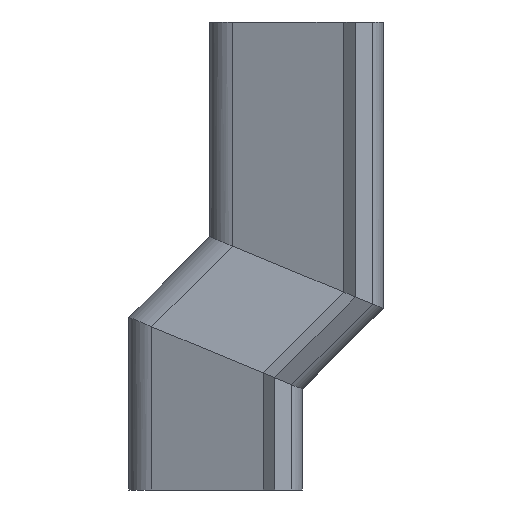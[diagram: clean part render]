
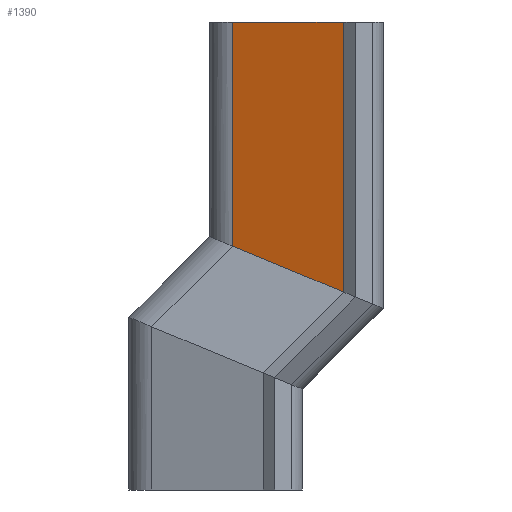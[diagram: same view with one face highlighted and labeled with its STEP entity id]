
A CAD part, left-side view. The second image highlights one B-rep face of the part: STEP entity #1390.
In plain terms, the highlighted planar face has unit normal (-0.929, 0.369, 0).
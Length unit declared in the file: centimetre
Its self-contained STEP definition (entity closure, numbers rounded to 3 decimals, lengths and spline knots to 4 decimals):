
#35=PLANE('',#1506);
#122=FACE_OUTER_BOUND('',#214,.T.);
#214=EDGE_LOOP('',(#1036,#1037,#1038,#1039));
#332=LINE('',#2195,#482);
#333=LINE('',#2198,#483);
#334=LINE('',#2200,#484);
#335=LINE('',#2201,#485);
#482=VECTOR('',#1760,0.1);
#483=VECTOR('',#1763,0.1);
#484=VECTOR('',#1764,0.1);
#485=VECTOR('',#1765,0.1);
#658=VERTEX_POINT('',#2191);
#659=VERTEX_POINT('',#2193);
#660=VERTEX_POINT('',#2197);
#661=VERTEX_POINT('',#2199);
#802=EDGE_CURVE('',#658,#659,#332,.T.);
#803=EDGE_CURVE('',#660,#658,#333,.T.);
#804=EDGE_CURVE('',#659,#661,#334,.T.);
#805=EDGE_CURVE('',#660,#661,#335,.T.);
#1036=ORIENTED_EDGE('',*,*,#803,.T.);
#1037=ORIENTED_EDGE('',*,*,#802,.T.);
#1038=ORIENTED_EDGE('',*,*,#804,.T.);
#1039=ORIENTED_EDGE('',*,*,#805,.F.);
#1390=ADVANCED_FACE('',(#122),#35,.T.);
#1506=AXIS2_PLACEMENT_3D('',#2196,#1761,#1762);
#1760=DIRECTION('',(0.,0.,1.));
#1761=DIRECTION('center_axis',(-0.929,0.369,0.));
#1762=DIRECTION('ref_axis',(0.,0.,1.));
#1763=DIRECTION('',(-0.345,-0.867,-0.359));
#1764=DIRECTION('',(0.369,0.929,0.));
#1765=DIRECTION('',(0.,0.,1.));
#2191=CARTESIAN_POINT('',(-28.8419,154.3549,4.7963));
#2193=CARTESIAN_POINT('',(-28.8419,154.3549,11.6));
#2195=CARTESIAN_POINT('',(-28.8419,154.3549,4.5));
#2196=CARTESIAN_POINT('Origin',(-28.8419,154.3549,4.5));
#2197=CARTESIAN_POINT('',(-27.6428,157.372,6.046));
#2198=CARTESIAN_POINT('',(-27.7986,156.98,5.8836));
#2199=CARTESIAN_POINT('',(-27.6428,157.372,11.6));
#2200=CARTESIAN_POINT('',(-27.6428,157.372,11.6));
#2201=CARTESIAN_POINT('',(-27.6428,157.372,4.5));
